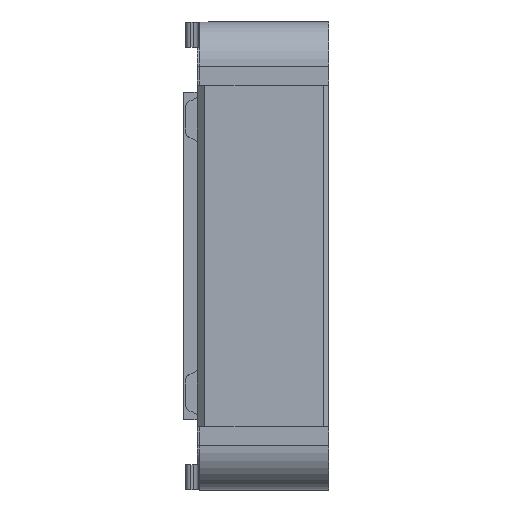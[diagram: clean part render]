
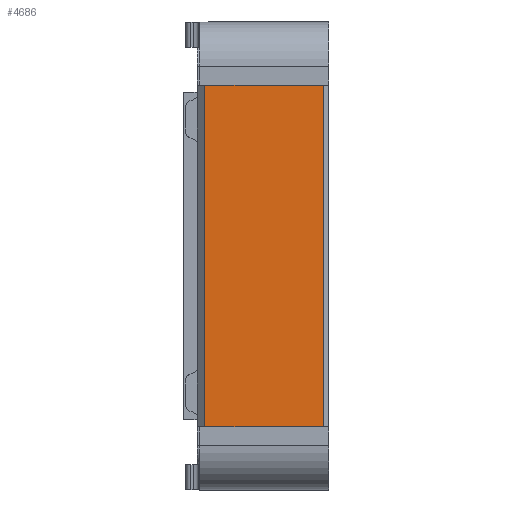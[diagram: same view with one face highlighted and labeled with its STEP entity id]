
A CAD part, left-side view. The second image highlights one B-rep face of the part: STEP entity #4686.
In plain terms, the highlighted planar face has unit normal (-1, 0, 0).
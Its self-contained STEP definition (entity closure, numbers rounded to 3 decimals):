
#43 = ORIENTED_EDGE ( 'NONE', *, *, #1589, .F. ) ;
#236 = DIRECTION ( 'NONE',  ( 0., 0., -1. ) ) ;
#1588 = ORIENTED_EDGE ( 'NONE', *, *, #3051, .T. ) ;
#1589 = EDGE_CURVE ( 'NONE', #2079, #12003, #4077, .T. ) ;
#1822 = VECTOR ( 'NONE', #236, 1000. ) ;
#2079 = VERTEX_POINT ( 'NONE', #5455 ) ;
#2552 = VECTOR ( 'NONE', #13747, 1000. ) ;
#2928 = EDGE_CURVE ( 'NONE', #14883, #2079, #13346, .T. ) ;
#3051 = EDGE_CURVE ( 'NONE', #14883, #14888, #4787, .T. ) ;
#3163 = CARTESIAN_POINT ( 'NONE',  ( -2.605, 0.09, -1.35 ) ) ;
#4077 = LINE ( 'NONE', #9138, #1822 ) ;
#4686 = ADVANCED_FACE ( 'NONE', ( #12275 ), #10853, .F. ) ;
#4760 = EDGE_CURVE ( 'NONE', #14888, #12003, #5785, .T. ) ;
#4787 = LINE ( 'NONE', #7595, #2552 ) ;
#5242 = ORIENTED_EDGE ( 'NONE', *, *, #4760, .T. ) ;
#5455 = CARTESIAN_POINT ( 'NONE',  ( -2.605, 0.09, 1.35 ) ) ;
#5785 = LINE ( 'NONE', #8688, #10531 ) ;
#5882 = DIRECTION ( 'NONE',  ( 0., 0., -1. ) ) ;
#6061 = EDGE_LOOP ( 'NONE', ( #5242, #43, #13646, #1588 ) ) ;
#6853 = DIRECTION ( 'NONE',  ( 0., -1., 0. ) ) ;
#7047 = DIRECTION ( 'NONE',  ( 1., 0., 0. ) ) ;
#7595 = CARTESIAN_POINT ( 'NONE',  ( -2.605, 1.03, 1.35 ) ) ;
#8438 = CARTESIAN_POINT ( 'NONE',  ( -2.605, 0.09, 1.35 ) ) ;
#8643 = CARTESIAN_POINT ( 'NONE',  ( -2.605, 1.03, 1.35 ) ) ;
#8688 = CARTESIAN_POINT ( 'NONE',  ( -2.605, 0.09, -1.35 ) ) ;
#9138 = CARTESIAN_POINT ( 'NONE',  ( -2.605, 0.09, 1.35 ) ) ;
#9783 = DIRECTION ( 'NONE',  ( 0., -1., 0. ) ) ;
#9941 = CARTESIAN_POINT ( 'NONE',  ( -2.605, 0.09, 1.35 ) ) ;
#10531 = VECTOR ( 'NONE', #9783, 1000. ) ;
#10853 = PLANE ( 'NONE',  #11068 ) ;
#11068 = AXIS2_PLACEMENT_3D ( 'NONE', #9941, #7047, #5882 ) ;
#12003 = VERTEX_POINT ( 'NONE', #3163 ) ;
#12275 = FACE_OUTER_BOUND ( 'NONE', #6061, .T. ) ;
#13346 = LINE ( 'NONE', #8438, #13429 ) ;
#13429 = VECTOR ( 'NONE', #6853, 1000. ) ;
#13646 = ORIENTED_EDGE ( 'NONE', *, *, #2928, .F. ) ;
#13747 = DIRECTION ( 'NONE',  ( 0., 0., -1. ) ) ;
#14883 = VERTEX_POINT ( 'NONE', #8643 ) ;
#14888 = VERTEX_POINT ( 'NONE', #15057 ) ;
#15057 = CARTESIAN_POINT ( 'NONE',  ( -2.605, 1.03, -1.35 ) ) ;
